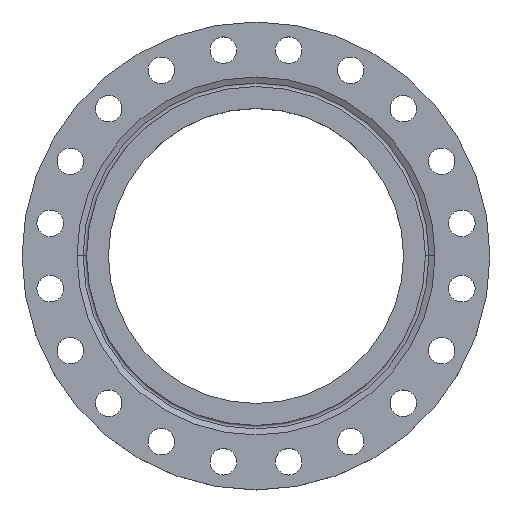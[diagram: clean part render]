
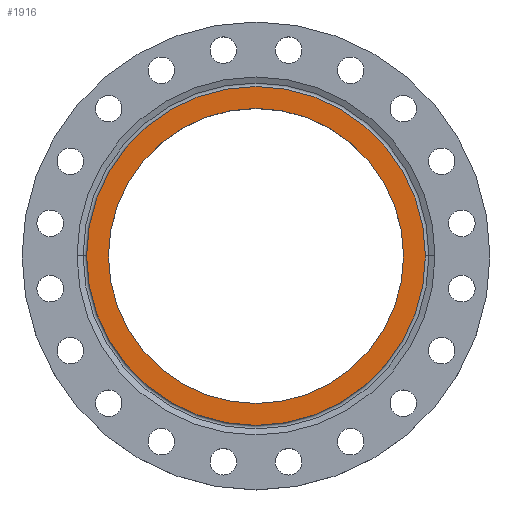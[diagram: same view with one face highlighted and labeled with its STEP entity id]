
A CAD part, top view. The second image highlights one B-rep face of the part: STEP entity #1916.
In plain terms, the highlighted planar face has unit normal (0, 0, 1).
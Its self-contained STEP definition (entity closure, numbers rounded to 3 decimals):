
#16 = CARTESIAN_POINT ( 'NONE',  ( 248., 0., 0. ) ) ;
#39 = DIRECTION ( 'NONE',  ( -1., 0., 0. ) ) ;
#40 = DIRECTION ( 'NONE',  ( 0., 0., -1. ) ) ;
#41 = CARTESIAN_POINT ( 'NONE',  ( 0., 0., 0. ) ) ;
#127 = EDGE_CURVE ( 'NONE', #1113, #326, #862, .T. ) ;
#141 = DIRECTION ( 'NONE',  ( 0., 0., -1. ) ) ;
#146 = VERTEX_POINT ( 'NONE', #16 ) ;
#174 = EDGE_LOOP ( 'NONE', ( #466, #465 ) ) ;
#186 = AXIS2_PLACEMENT_3D ( 'NONE', #1763, #141, #991 ) ;
#256 = CIRCLE ( 'NONE', #186, 248. ) ;
#326 = VERTEX_POINT ( 'NONE', #1333 ) ;
#385 = DIRECTION ( 'NONE',  ( -1., 0., 0. ) ) ;
#465 = ORIENTED_EDGE ( 'NONE', *, *, #1943, .F. ) ;
#466 = ORIENTED_EDGE ( 'NONE', *, *, #1124, .F. ) ;
#469 = ORIENTED_EDGE ( 'NONE', *, *, #1819, .T. ) ;
#470 = ORIENTED_EDGE ( 'NONE', *, *, #127, .T. ) ;
#712 = DIRECTION ( 'NONE',  ( 1., 0., 0. ) ) ;
#740 = AXIS2_PLACEMENT_3D ( 'NONE', #1076, #1681, #2103 ) ;
#780 = CARTESIAN_POINT ( 'NONE',  ( -248., 0., 0. ) ) ;
#857 = PLANE ( 'NONE',  #1152 ) ;
#862 = CIRCLE ( 'NONE', #864, 216. ) ;
#864 = AXIS2_PLACEMENT_3D ( 'NONE', #41, #40, #39 ) ;
#957 = VERTEX_POINT ( 'NONE', #780 ) ;
#967 = EDGE_LOOP ( 'NONE', ( #470, #469 ) ) ;
#991 = DIRECTION ( 'NONE',  ( -1., 0., 0. ) ) ;
#1076 = CARTESIAN_POINT ( 'NONE',  ( 0., 0., 0. ) ) ;
#1113 = VERTEX_POINT ( 'NONE', #1355 ) ;
#1124 = EDGE_CURVE ( 'NONE', #957, #146, #256, .T. ) ;
#1152 = AXIS2_PLACEMENT_3D ( 'NONE', #1554, #1995, #712 ) ;
#1260 = AXIS2_PLACEMENT_3D ( 'NONE', #1350, #1869, #385 ) ;
#1333 = CARTESIAN_POINT ( 'NONE',  ( 216., 0., 0. ) ) ;
#1350 = CARTESIAN_POINT ( 'NONE',  ( 0., 0., 0. ) ) ;
#1355 = CARTESIAN_POINT ( 'NONE',  ( -216., 0., 0. ) ) ;
#1554 = CARTESIAN_POINT ( 'NONE',  ( 0., 0., 0. ) ) ;
#1651 = CIRCLE ( 'NONE', #740, 248. ) ;
#1676 = FACE_BOUND ( 'NONE', #967, .T. ) ;
#1681 = DIRECTION ( 'NONE',  ( 0., 0., -1. ) ) ;
#1763 = CARTESIAN_POINT ( 'NONE',  ( 0., 0., 0. ) ) ;
#1819 = EDGE_CURVE ( 'NONE', #326, #1113, #1965, .T. ) ;
#1869 = DIRECTION ( 'NONE',  ( 0., 0., -1. ) ) ;
#1916 = ADVANCED_FACE ( 'NONE', ( #1676, #2097 ), #857, .T. ) ;
#1943 = EDGE_CURVE ( 'NONE', #146, #957, #1651, .T. ) ;
#1965 = CIRCLE ( 'NONE', #1260, 216. ) ;
#1995 = DIRECTION ( 'NONE',  ( 0., 0., 1. ) ) ;
#2097 = FACE_OUTER_BOUND ( 'NONE', #174, .T. ) ;
#2103 = DIRECTION ( 'NONE',  ( -1., 0., 0. ) ) ;
